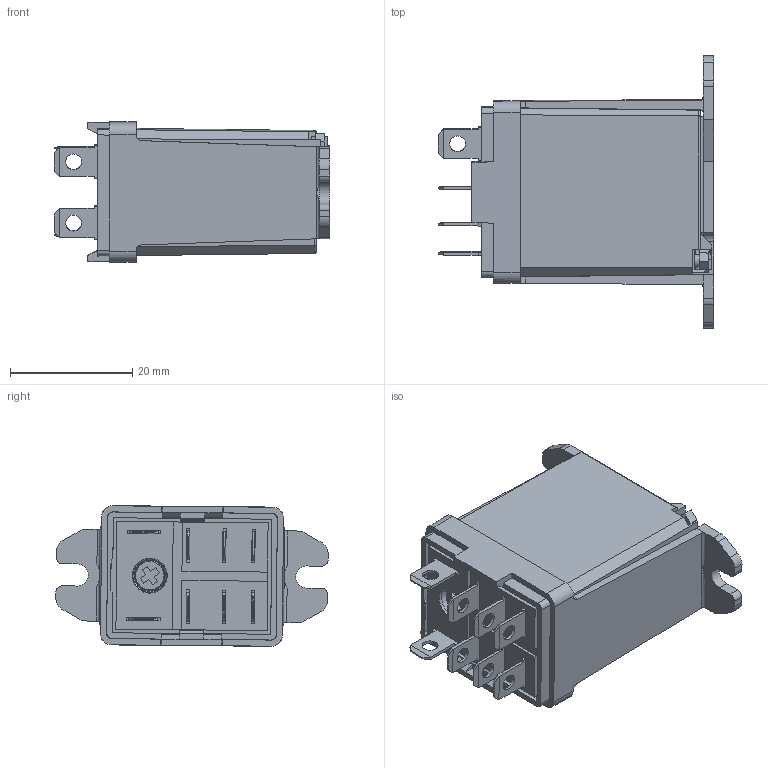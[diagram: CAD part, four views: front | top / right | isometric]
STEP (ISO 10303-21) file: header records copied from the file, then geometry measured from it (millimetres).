
FILE_DESCRIPTION(/* description */ ('Unknown'),/* implementation_level */ '2;1');
FILE_NAME(/* name */ '05625_with_5632_c',/* time_stamp */ '2015-12-09T10:54:27+01:00',/* author */ ('Unknown'),/* organization */ ('Unknown'),/* preprocessor_version */ 'ST-DEVELOPER v16',/* originating_system */ 'DEX',/* authorisation */ $);
FILE_SCHEMA (('AUTOMOTIVE_DESIGN {1 0 10303 214 3 1 1}'));
Length unit declared in the file: millimetre
Products named in the file (1): 05625_with_5632
Bounding box: 45 x 44.47 x 22.98 mm (x, y, z)
Volume: 2361 mm3; surface area: 12389.5 mm2
Topology: 1 solids, 260 shells, 429 faces, 1985 edges, 1799 vertices
Faces by surface type: plane 353, cylinder 65, cone 8, bspline 3
Full cylindrical faces by diameter (mm): 2 x1, 2.6 x8, 5 x1
Entity records: 22494 total; most frequent: CARTESIAN_POINT 4835, DIRECTION 2940, ORIENTED_EDGE 2465, EDGE_CURVE 1966, VERTEX_POINT 1795, LINE 1718, VECTOR 1718, AXIS2_PLACEMENT_3D 611
